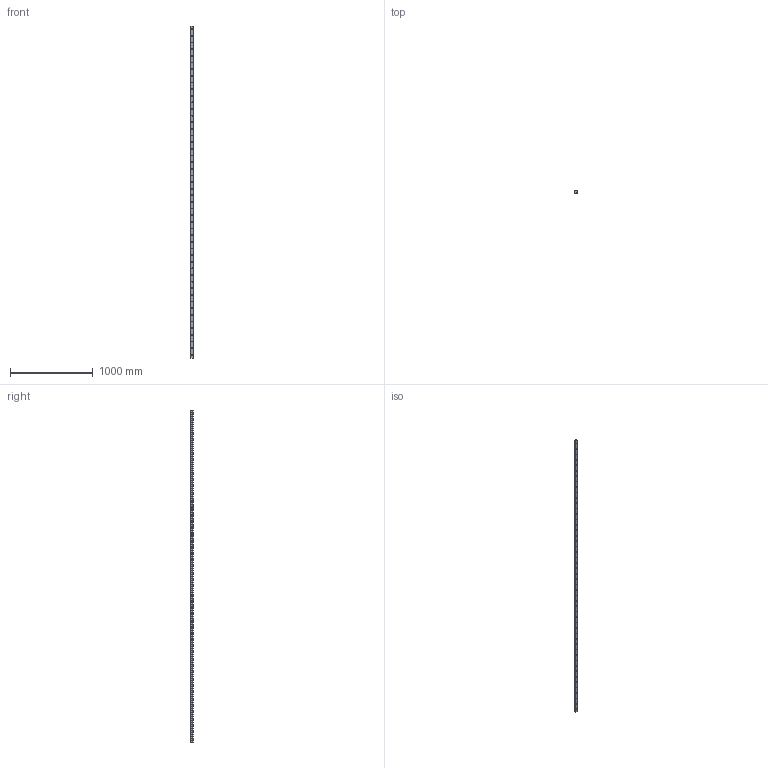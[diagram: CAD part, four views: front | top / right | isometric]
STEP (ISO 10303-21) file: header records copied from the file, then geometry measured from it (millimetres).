
FILE_DESCRIPTION (( 'STEP AP214' ), '1' );
FILE_NAME ('R35-4000.STEP', '2019-06-03T00:32:17', ( '' ), ( '' ), 'SwSTEP 2.0', 'SolidWorks 2016', '' );
FILE_SCHEMA (( 'AUTOMOTIVE_DESIGN' ));
Length unit declared in the file: millimetre
Products named in the file (1): R35-4000
Bounding box: 34 x 29 x 4000 mm (x, y, z)
Volume: 3421868.5 mm3; surface area: 562618 mm2
Topology: 1 solids, 1 shells, 276 faces, 672 edges, 448 vertices
Faces by surface type: cylinder 206, plane 70
Entity records: 11598 total; most frequent: DIRECTION 1638, CARTESIAN_POINT 1397, ORIENTED_EDGE 1344, AXIS2_PLACEMENT_3D 689, EDGE_CURVE 672, VERTEX_POINT 448, EDGE_LOOP 426, CIRCLE 412
